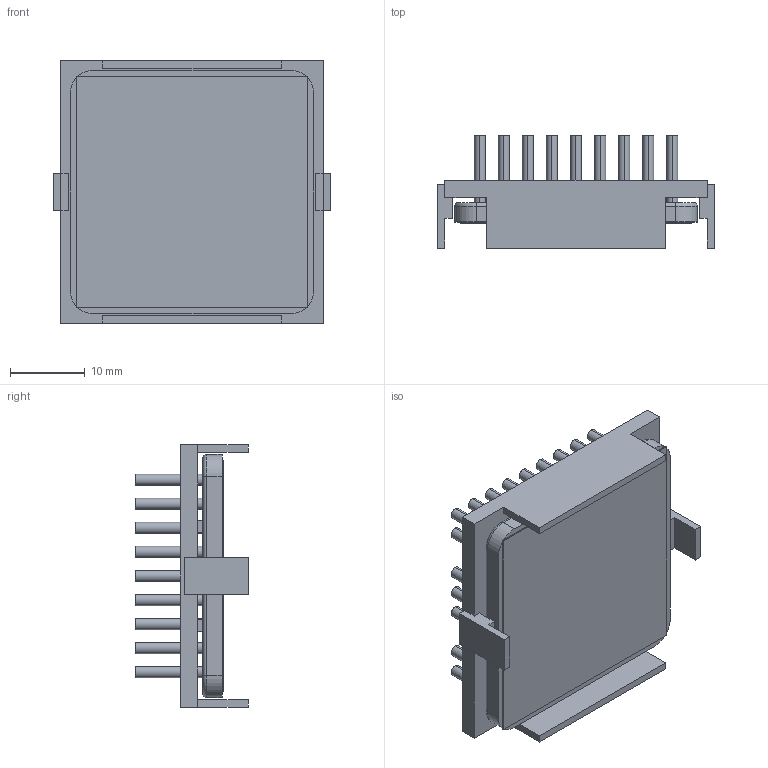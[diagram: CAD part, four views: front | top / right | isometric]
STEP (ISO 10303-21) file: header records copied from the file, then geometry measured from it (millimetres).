
FILE_DESCRIPTION (( 'STEP AP214' ), '1' );
FILE_NAME ('INM33002-12P-2.6Y.STEP', '2023-02-20T20:05:58', ( '' ), ( '' ), 'SwSTEP 2.0', 'SolidWorks 2020', '' );
FILE_SCHEMA (( 'AUTOMOTIVE_DESIGN' ));
Length unit declared in the file: inch
Products named in the file (1): INM33002-12P-2.6Y
Bounding box: 37.2 x 15.1 x 35.2 mm (x, y, z)
Volume: 5601.7 mm3; surface area: 10020.3 mm2
Topology: 3 solids, 3 shells, 301 faces, 658 edges, 436 vertices
Faces by surface type: cylinder 154, plane 143, torus 4
Entity records: 12339 total; most frequent: DIRECTION 1574, CARTESIAN_POINT 1396, ORIENTED_EDGE 1316, EDGE_CURVE 658, AXIS2_PLACEMENT_3D 614, VERTEX_POINT 436, EDGE_LOOP 376, LINE 346
